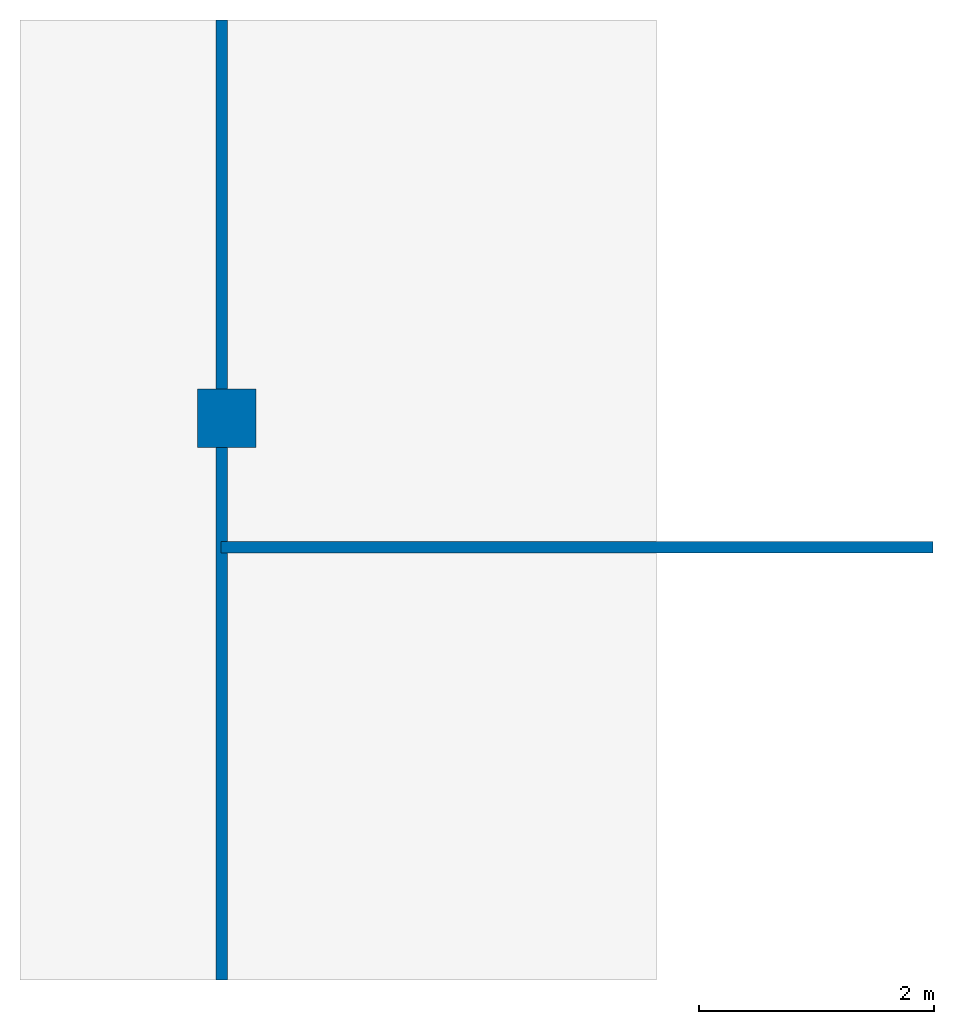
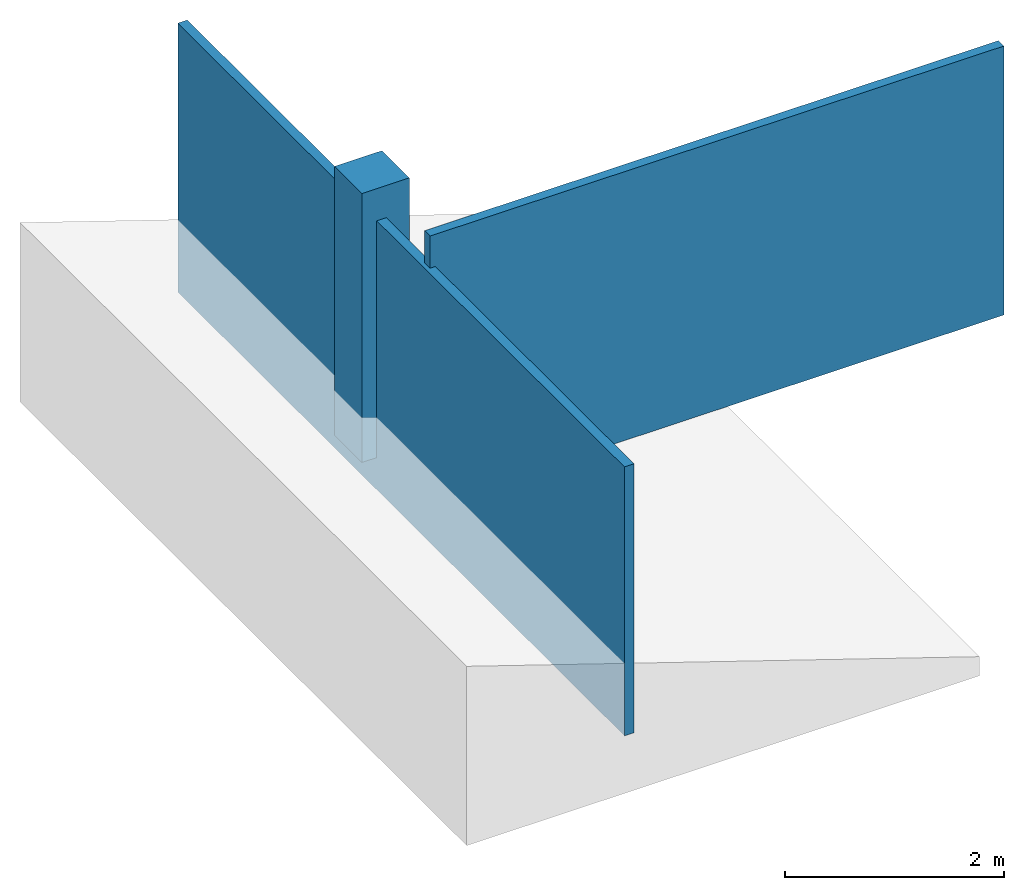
# One storey, part 1 of 2: 2 walls, 1 column.
"""IFC4 building model written with IfcOpenShell, lengths in millimetres."""

import ifcopenshell
import ifcopenshell.guid

model = None  # the IFC model being written
_history = None  # IfcOwnerHistory: only IFC2X3 demands one
_inside = {}  # id of a spatial element -> (the spatial element, [elements in it])
_under = {}  # id of a project, library or spatial element -> (it, [spatial elements below it])
_declared = {}  # id of a project -> (the project, [libraries it declares])
_typed = {}  # id of a type object -> (the type object, [elements of that type])
_made_of = {}  # id of a material, layer set ... -> (it, [elements and type objects made of it])


def new_model(schema):
    """Start an empty IFC model of exactly this schema.

    Asked for "IFC4X3", IfcOpenShell would pick the latest addendum, in which some entities
    have other attributes; the version numbers below select the first issue.
    IFC2X3 requires an IfcOwnerHistory on every rooted entity: one is made here for all.
    """
    global model, _history
    if schema == "IFC4X3":
        model = ifcopenshell.file(schema_version=(4, 3, 0, 0))
    else:
        model = ifcopenshell.file(schema=schema)
    _inside.clear()
    _under.clear()
    _declared.clear()
    _typed.clear()
    _made_of.clear()
    _history = None
    if model.schema == "IFC2X3":
        org = make("IfcOrganization", Name="unknown")
        user = make(
            "IfcPersonAndOrganization",
            ThePerson=make("IfcPerson", FamilyName="unknown"),
            TheOrganization=org,
        )
        app = make(
            "IfcApplication",
            ApplicationDeveloper=org,
            Version="unknown",
            ApplicationFullName="unknown",
            ApplicationIdentifier="unknown",
        )
        _history = make(
            "IfcOwnerHistory",
            OwningUser=user,
            OwningApplication=app,
            ChangeAction="ADDED",
            CreationDate=0,
        )
    return model


def make(cls, **values):
    """One entity of the class cls with the attributes given. An attribute that is None is left unset."""
    return model.create_entity(
        cls, **{name: value for name, value in values.items() if value is not None}
    )


def entity(cls, *values):
    """Any entity or typed value of the class cls, its attributes in the order of the schema. None: left unset."""
    e = model.create_entity(cls)
    for i, value in enumerate(values):
        if value is not None:
            e[i] = value
    return e


def rooted(cls, **values):
    """An entity with a GlobalId (a new one), such as an element, a storey or a relation."""
    return make(cls, GlobalId=ifcopenshell.guid.new(), OwnerHistory=_history, **values)


def si_unit(unit_type, name, prefix=None):
    """IfcSIUnit, for example si_unit("LENGTHUNIT", "METRE", prefix="MILLI")."""
    return make("IfcSIUnit", UnitType=unit_type, Prefix=prefix, Name=name)


def converted_unit(unit_type, name, factor, base, dimensions=None, offset=None):
    """IfcConversionBasedUnit, such as the inch: factor (a typed value) times the base unit."""
    return make(
        "IfcConversionBasedUnit"
        if offset is None
        else "IfcConversionBasedUnitWithOffset",
        ConversionOffset=offset,
        Dimensions=None
        if dimensions is None
        else entity("IfcDimensionalExponents", *dimensions),
        UnitType=unit_type,
        Name=name,
        ConversionFactor=make(
            "IfcMeasureWithUnit", ValueComponent=factor, UnitComponent=base
        ),
    )


def assignment(units):
    """IfcUnitAssignment: the units of a project."""
    return None if units is None else make("IfcUnitAssignment", Units=units)


def point(xyz):
    """IfcCartesianPoint."""
    return None if xyz is None else make("IfcCartesianPoint", Coordinates=xyz)


def direction(xyz):
    """IfcDirection."""
    return None if xyz is None else make("IfcDirection", DirectionRatios=xyz)


def frame(location, z_axis=None, x_axis=None):
    """IfcAxis2Placement3D, a coordinate frame: its origin and axes. An axis left out is left unset."""
    return make(
        "IfcAxis2Placement3D",
        Location=point(location),
        Axis=direction(z_axis),
        RefDirection=direction(x_axis),
    )


def frame_2d(location, x_axis=None):
    """IfcAxis2Placement2D, a coordinate frame in the plane: its origin and x axis."""
    return make(
        "IfcAxis2Placement2D", Location=point(location), RefDirection=direction(x_axis)
    )


def origin_with_axes():
    """The frame at (0, 0, 0) with the z axis (0, 0, 1) and the x axis (1, 0, 0) written out."""
    return frame((0.0, 0.0, 0.0), z_axis=(0.0, 0.0, 1.0), x_axis=(1.0, 0.0, 0.0))


def origin_2d_with_axis():
    """The frame at (0, 0) in the plane with the x axis (1, 0) written out."""
    return frame_2d((0.0, 0.0), x_axis=(1.0, 0.0))


def place(relative_to, where):
    """IfcLocalPlacement: puts the frame where relative to a parent placement (None: the world)."""
    return make(
        "IfcLocalPlacement", PlacementRelTo=relative_to, RelativePlacement=where
    )


def context(
    kind, dimensions, precision=None, world=None, true_north=None, identifier=None
):
    """IfcGeometricRepresentationContext, for example the 3D "Model" context."""
    return make(
        "IfcGeometricRepresentationContext",
        ContextIdentifier=identifier,
        ContextType=kind,
        CoordinateSpaceDimension=dimensions,
        Precision=precision,
        WorldCoordinateSystem=world,
        TrueNorth=true_north,
    )


def subcontext(parent, identifier, kind, view, scale=None):
    """IfcGeometricRepresentationSubContext, for example "Body" below "Model"."""
    return make(
        "IfcGeometricRepresentationSubContext",
        ContextIdentifier=identifier,
        ContextType=kind,
        ParentContext=parent,
        TargetScale=scale,
        TargetView=view,
    )


def project(units=None, contexts=None):
    """IfcProject with its units and contexts."""
    return rooted(
        "IfcProject",
        Name="project",
        RepresentationContexts=contexts,
        UnitsInContext=assignment(units),
    )


def spatial(cls, under=None, at=None, **own):
    """A site, building, storey or space (cls), placed at a placement, below another one or the project."""
    s = rooted(cls, ObjectPlacement=at, **own)
    if under is not None:
        _under.setdefault(under.id(), (under, []))[1].append(s)
    return s


def point_list(points):
    """IfcCartesianPointList2D or 3D."""
    cls = (
        "IfcCartesianPointList2D" if len(points[0]) == 2 else "IfcCartesianPointList3D"
    )
    return make(cls, CoordList=points)


def line(*indices):
    """IfcLineIndex: a straight run through numbered points of an indexed curve."""
    return model.create_entity("IfcLineIndex", indices)


def indexed_curve(points, segments=None, self_intersect=None):
    """IfcIndexedPolyCurve: lines and arcs through numbered points (the first is 1)."""
    return make(
        "IfcIndexedPolyCurve",
        Points=point_list(points),
        Segments=segments,
        SelfIntersect=self_intersect,
    )


def profile(cls, at=None, kind="AREA", **sizes):
    """A parametric profile (cls). Its sizes go by their IFC names, for example OverallWidth=200.0."""
    return make(cls, ProfileType=kind, Position=at, **sizes)


def rectangle(**sizes):
    """IfcRectangleProfileDef."""
    return profile("IfcRectangleProfileDef", **sizes)


def outline(outer, holes=None, kind="AREA"):
    """IfcArbitraryClosedProfileDef: a profile drawn as a closed curve; with holes, ...WithVoids."""
    if holes is None:
        return make("IfcArbitraryClosedProfileDef", ProfileType=kind, OuterCurve=outer)
    return make(
        "IfcArbitraryProfileDefWithVoids",
        ProfileType=kind,
        OuterCurve=outer,
        InnerCurves=holes,
    )


def extrude(swept, where, along, depth):
    """IfcExtrudedAreaSolid: the profile swept, set in the frame where, extruded along a direction by depth."""
    return make(
        "IfcExtrudedAreaSolid",
        SweptArea=swept,
        Position=where,
        ExtrudedDirection=direction(along),
        Depth=depth,
    )


def shape(context_of_items, identifier, shape_type, items):
    """IfcShapeRepresentation: the items that make up one representation, for example the "Body"."""
    return make(
        "IfcShapeRepresentation",
        ContextOfItems=context_of_items,
        RepresentationIdentifier=identifier,
        RepresentationType=shape_type,
        Items=items,
    )


def material(Name=None, Category=None):
    """IfcMaterial."""
    return make("IfcMaterial", Name=Name, Category=Category)


def layer(
    of_material, thickness, ventilated=None, Name=None, Category=None, Priority=None
):
    """IfcMaterialLayer: one layer of a wall or slab, of a material (None: an air gap)."""
    return make(
        "IfcMaterialLayer",
        Material=of_material,
        LayerThickness=thickness,
        IsVentilated=ventilated,
        Name=Name,
        Category=Category,
        Priority=Priority,
    )


def layer_set(layers, Name=None):
    """IfcMaterialLayerSet."""
    return make("IfcMaterialLayerSet", MaterialLayers=layers, LayerSetName=Name)


def layer_usage(for_layer_set, set_direction, sense, offset, extent=None):
    """IfcMaterialLayerSetUsage: how a layer set lies in its element."""
    return make(
        "IfcMaterialLayerSetUsage",
        ForLayerSet=for_layer_set,
        LayerSetDirection=set_direction,
        DirectionSense=sense,
        OffsetFromReferenceLine=offset,
        ReferenceExtent=extent,
    )


def material_profile(
    of_material, cross_section, Name=None, Category=None, Priority=None
):
    """IfcMaterialProfile: a cross section and its material."""
    return make(
        "IfcMaterialProfile",
        Name=Name,
        Material=of_material,
        Profile=cross_section,
        Priority=Priority,
        Category=Category,
    )


def profile_set(profiles, Name=None, composite=None):
    """IfcMaterialProfileSet."""
    return make(
        "IfcMaterialProfileSet",
        Name=Name,
        MaterialProfiles=profiles,
        CompositeProfile=composite,
    )


def profile_usage(for_profile_set, cardinal=None, extent=None):
    """IfcMaterialProfileSetUsage: how a profile set lies along its element."""
    return make(
        "IfcMaterialProfileSetUsage",
        ForProfileSet=for_profile_set,
        CardinalPoint=cardinal,
        ReferenceExtent=extent,
    )


def made_of(thing, what):
    """Note that an element or type object is made of a material, layer set ...; save() writes the relation."""
    if what is not None:
        _made_of.setdefault(what.id(), (what, []))[1].append(thing)
    return thing


def type_object(cls, material=None, **own):
    """A type object (cls), such as IfcWallType, which elements share."""
    return made_of(rooted(cls, **own), material)


def element(
    cls,
    number,
    at=None,
    inside=None,
    cuts=None,
    type_object=None,
    material=None,
    context=None,
    identifier="Body",
    shape_type=None,
    held_by="IfcProductDefinitionShape",
    body=None,
    shapes=None,
    **own,
):
    """One element of the class cls, such as IfcWall. Its Tag is "e" and its number.

    at: its placement. inside: the storey or other place that contains it. cuts: it is an
    opening in that element (IfcRelVoidsElement). A single representation is given by context,
    identifier, shape_type and body (its items); several are given by shapes. held_by: the class
    of the entity that holds the representations. save() writes the other relations.
    """
    e = rooted(cls, Tag="e%d" % number, ObjectPlacement=at, **own)
    if body is not None:
        shapes = [shape(context, identifier, shape_type, body)]
    if shapes is not None:
        e.Representation = make(held_by, Representations=shapes)
    if inside is not None:
        _inside.setdefault(inside.id(), (inside, []))[1].append(e)
    if cuts is not None:
        rooted(
            "IfcRelVoidsElement", RelatingBuildingElement=cuts, RelatedOpeningElement=e
        )
    if type_object is not None:
        _typed.setdefault(type_object.id(), (type_object, []))[1].append(e)
    return made_of(e, material)


def aggregate(whole, parts):
    """IfcRelAggregates: a whole, such as a stair, and the parts it consists of."""
    return rooted("IfcRelAggregates", RelatingObject=whole, RelatedObjects=parts)


def save(model, path):
    """Write the relations noted so far, then the file.

    IfcRelAggregates (storeys below a building ...), IfcRelContainedInSpatialStructure (elements
    in a storey), IfcRelDefinesByType, IfcRelAssociatesMaterial and IfcRelDeclares: one each for
    every whole, place, type object, material and project.
    """
    for whole, parts in _under.values():
        aggregate(whole, parts)
    for where, things in _inside.values():
        rooted(
            "IfcRelContainedInSpatialStructure",
            RelatedElements=things,
            RelatingStructure=where,
        )
    for kind, things in _typed.values():
        rooted("IfcRelDefinesByType", RelatedObjects=things, RelatingType=kind)
    for what, things in _made_of.values():
        rooted("IfcRelAssociatesMaterial", RelatedObjects=things, RelatingMaterial=what)
    for by, libraries in _declared.values():
        rooted("IfcRelDeclares", RelatingContext=by, RelatedDefinitions=libraries)
    model.write(path)


model = new_model("IFC4")

# Units and contexts
model_context = context("Model", 3, precision=1e-05, world=origin_with_axes())
plan_context = context("Plan", 2, precision=1e-05, world=origin_2d_with_axis())
body_context = subcontext(model_context, "Body", "Model", "MODEL_VIEW")
ifc_project = project(units=[si_unit("LENGTHUNIT", "METRE", prefix="MILLI"), converted_unit("PLANEANGLEUNIT", "degree", entity("IfcReal", 0.0174532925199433), si_unit("PLANEANGLEUNIT", "RADIAN"), dimensions=[0, 0, 0, 0, 0, 0, 0]), si_unit("AREAUNIT", "SQUARE_METRE"), si_unit("VOLUMEUNIT", "CUBIC_METRE")], contexts=[model_context, plan_context])

# Site, building, storey
site_placement = place(None, origin_with_axes())
site = spatial("IfcSite", under=ifc_project, at=site_placement, Name="My Site")
building_placement = place(site_placement, origin_with_axes())
building = spatial("IfcBuilding", under=site, at=building_placement, Name="My Building")
storey_placement = place(building_placement, origin_with_axes())
storey = spatial("IfcBuildingStorey", under=building, at=storey_placement, Name="My Storey")

# Column
ifc_material_1 = material(Name="concrete")
ifc_material_profile = material_profile(ifc_material_1, rectangle(XDim=500.0, YDim=500.0), Priority=100)
ifc_profile_set = profile_set([ifc_material_profile], Name="concrete")
ifc_profile_usage = profile_usage(ifc_profile_set, cardinal=5)
column_type = type_object("IfcColumnType", Name="dd", PredefinedType="COLUMN", material=ifc_profile_set)
column_placement = place(storey_placement, frame((758.765816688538, 3777.79054641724, 0.0), z_axis=(0.0, 0.0, 1.0), x_axis=(1.0, 0.0, 0.0)))
element("IfcColumn", 1, at=column_placement, inside=storey, type_object=column_type, material=ifc_profile_usage, Name="Column", context=body_context, shape_type="SweptSolid", body=[
    extrude(rectangle(XDim=500.0, YDim=500.0), origin_with_axes(), (0.0, 0.0, 1.0), 3000.0),
])

# Walls
ifc_material_2 = material(Name="brick")
ifc_layer_1 = layer(ifc_material_2, 100.0, Priority=10)
ifc_layer_set_1 = layer_set([ifc_layer_1], Name="brick")
ifc_layer_usage_1 = layer_usage(ifc_layer_set_1, "AXIS2", "POSITIVE", 0.0)
wall_type_1 = type_object("IfcWallType", Name="Unnamed", PredefinedType="SOLIDWALL", material=ifc_layer_set_1)
wall_1_placement = place(storey_placement, frame((764.760971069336, -1000.0, -358.376443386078), z_axis=(0.0, 0.0, 1.0), x_axis=(1.94707183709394e-07, 0.999999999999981, 0.0)))
element("IfcWall", 2, at=wall_1_placement, inside=storey, type_object=wall_type_1, material=ifc_layer_usage_1, Name="Wall", context=body_context, shape_type="SweptSolid", body=[
    extrude(outline(indexed_curve([(0.0, 0.0), (0.0, 100.0), (8163.63541795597, 100.0), (8163.63541795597, 0.0)], segments=[line(1, 2, 3, 4, 1)])), origin_with_axes(), (0.0, 0.0, 1.0), 3000.0),
])
ifc_layer_2 = layer(ifc_material_1, 100.0, Priority=20)
ifc_layer_set_2 = layer_set([ifc_layer_2], Name="concrete")
ifc_layer_usage_2 = layer_usage(ifc_layer_set_2, "AXIS2", "POSITIVE", 0.0)
wall_type_2 = type_object("IfcWallType", Name="dd", PredefinedType="MOVABLE", material=ifc_layer_set_2)
wall_2_placement = place(storey_placement, frame((709.620004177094, 2629.8930644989, 0.0), z_axis=(0.0, 0.0, 1.0), x_axis=(1.0, 0.0, 0.0)))
element("IfcWall", 3, at=wall_2_placement, inside=storey, type_object=wall_type_2, material=ifc_layer_usage_2, Name="Wall", context=body_context, shape_type="SweptSolid", body=[
    extrude(outline(indexed_curve([(0.0, 0.0), (0.0, 100.0), (6055.14233779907, 100.0), (6055.14233779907, 0.0)], segments=[line(1, 2, 3, 4, 1)])), origin_with_axes(), (0.0, 0.0, 1.0), 3000.0),
])

save(model, "model.ifc")
